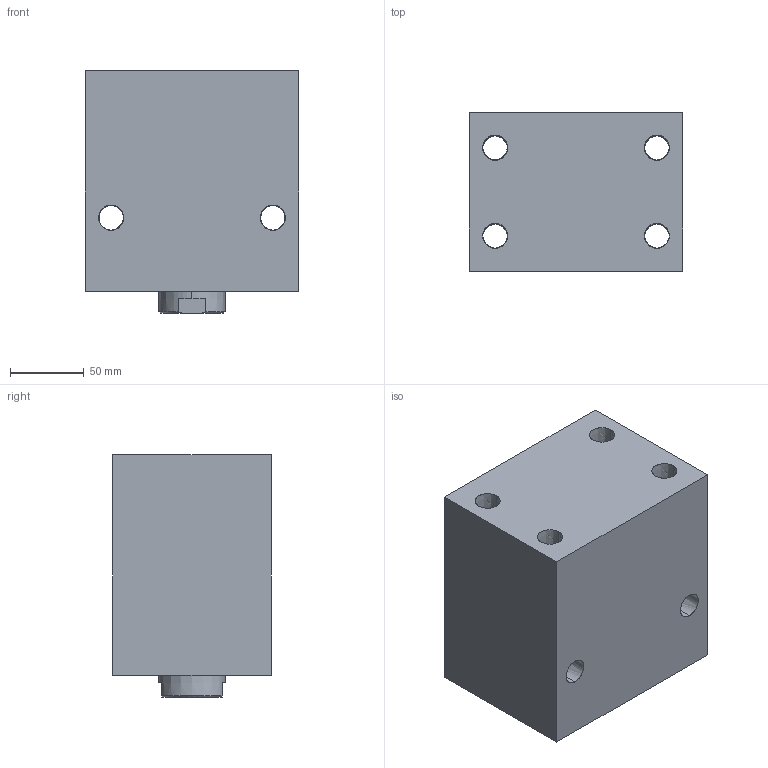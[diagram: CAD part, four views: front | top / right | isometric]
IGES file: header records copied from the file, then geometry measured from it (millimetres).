
Start section: SolidWorks IGES file using analytic representation for surfaces
Global section: file name: D:\karuppas\Clasp\3D model\Block cylinder B01C-Female thread\B01C-775F\Block cylinder B01C-775F.IGS; native system: SolidWorks 2017; preprocessor: SolidWorks 2017; author: pc; date: 220710.000648; units: millimetre
Bounding box: 145 x 108 x 165 mm (x, y, z)
Surface area: 176445.9 mm2 (no closed solid volume)
Topology: 0 solids, 0 shells, 334 faces, 4858 edges, 4852 vertices
Faces by surface type: bspline 282, revolution 52
